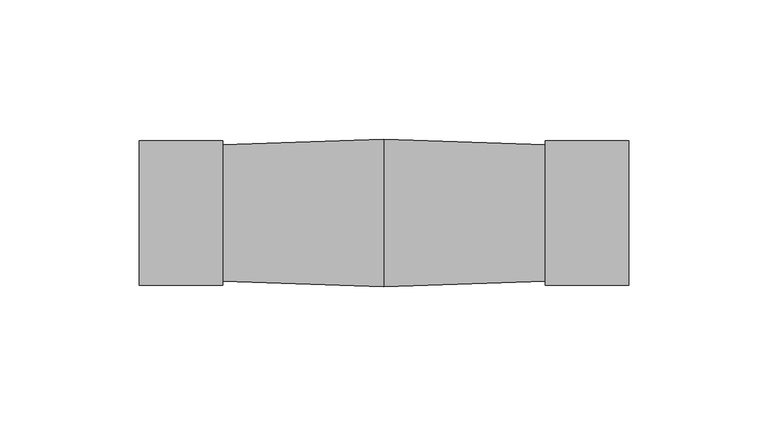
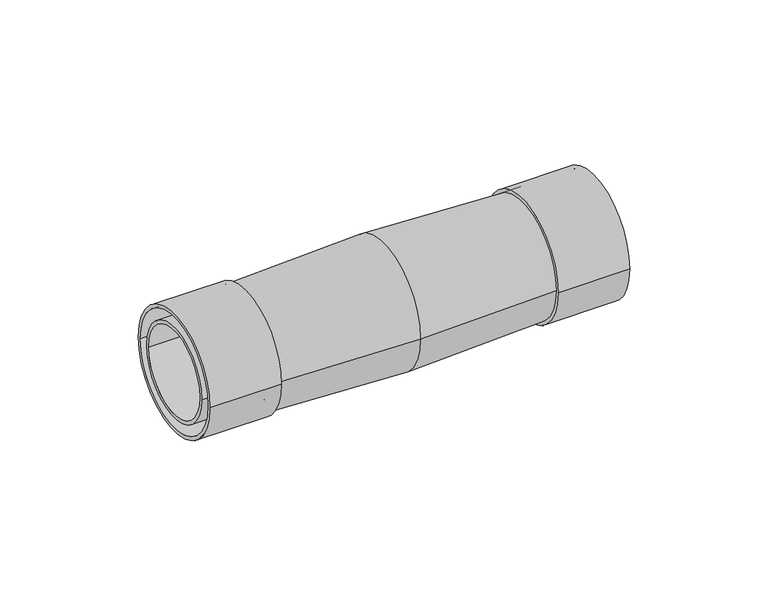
"""IFC4 building model written with IfcOpenShell, lengths in millimetres: cable carrier fitting geometry, КНС_МуфтаДляАрмированныхТруб_IP65_DKC : Коробка."""

from ifc_helpers import new_model, si_unit, point, frame, origin, origin_2d, place, context, project, spatial, polyline, circle_curve, trimmed, segment, composite_curve, outline, extrude, source, transform, mapped, element, save
from ifc_brep_helpers import plane_surface, revolved_surface, advanced_brep


def cable_carrier_fitting_f0e7d8c3(model_context):
    return source(origin(), model_context, "Body", "SolidModel", [
        advanced_brep(
        [(-58.0, -24.5, 0.0), (-58.0, 24.5, 0.0), (0.0, 26.5, 0.0), (0.0, -26.5, 0.0), (-58.0, 0.0, 0.0), (58.0, -24.5, 0.0), (58.0, 24.5, 0.0), (58.0, 0.0, 0.0)],
        [
            (0, 1, circle_curve(frame((-58.0, 0.0, 0.0), z_axis=(1.0, 0.0, 0.0), x_axis=(0.0, 1.0, 0.0)), 24.5)),
            (1, 2),
            (2, 3, circle_curve(frame((0.0, 0.0, 0.0), z_axis=(-1.0, 0.0, 0.0), x_axis=(0.0, 1.0, 0.0)), 26.5)),
            (3, 0),
            (1, 0, circle_curve(frame((-58.0, 0.0, 0.0), z_axis=(1.0, 0.0, 0.0), x_axis=(0.0, 1.0, 0.0)), 24.5)),
            (3, 2, circle_curve(frame((0.0, 0.0, 0.0), z_axis=(-1.0, 0.0, 0.0), x_axis=(0.0, 1.0, 0.0)), 26.5)),
            (4, 1),
            (0, 4),
            (5, 6, circle_curve(frame((58.0, 0.0, 0.0), z_axis=(1.0, 0.0, 0.0), x_axis=(0.0, 1.0, 0.0)), 24.5)),
            (6, 7),
            (7, 5),
            (6, 5, circle_curve(frame((58.0, 0.0, 0.0), z_axis=(1.0, 0.0, 0.0), x_axis=(0.0, 1.0, 0.0)), 24.5)),
            (2, 6),
            (5, 3),
        ],
        [
            revolved_surface(polyline([(0.0, 26.5, 0.0), (-58.0, 24.5, 0.0)]), (1539.0, 0.0, 0.0), (-1.0, 0.0, 0.0)),
            plane_surface(frame((-58.0, 0.0, 0.0), z_axis=(-1.0, 0.0, 0.0), x_axis=(0.0, 1.0, 0.0))),
            plane_surface(frame((58.0, 0.0, 0.0), z_axis=(1.0, 0.0, 0.0), x_axis=(0.0, 1.0, 0.0))),
            revolved_surface(polyline([(58.0, 24.5, 0.0), (0.0, 26.5, 0.0)]), (1539.0, 0.0, 0.0), (-1.0, 0.0, 0.0)),
        ],
        [
            (0, [[1, 2, 3, 4]]),
            (0, [[5, -4, 6, -2]]),
            (1, [[7, -1, 8]]),
            (1, [[-8, -5, -7]]),
            (2, [[9, 10, 11]]),
            (2, [[12, -11, -10]]),
            (3, [[-3, 13, -9, 14]]),
            (3, [[-6, -14, -12, -13]]),
        ],
    ),
        extrude(outline(composite_curve([segment(trimmed(circle_curve(origin_2d(), 20.0), [point((-20.0, 0.0))], [point((20.0, 0.0))], False, "CARTESIAN"), True, "CONTINUOUS"), segment(trimmed(circle_curve(origin_2d(), 20.0), [point((20.0, 0.0))], [point((-20.0, 0.0))], False, "CARTESIAN"), True, "CONTINUOUS")], self_intersect=False), holes=[composite_curve([segment(trimmed(circle_curve(origin_2d(), 18.5), [point((-18.5, 0.0))], [point((18.5, 0.0))], True, "CARTESIAN"), True, "CONTINUOUS"), segment(trimmed(circle_curve(origin_2d(), 18.5), [point((18.5, 0.0))], [point((-18.5, 0.0))], True, "CARTESIAN"), True, "CONTINUOUS")], self_intersect=False)]), frame((-88.0, 0.0, 0.0), z_axis=(1.0, 0.0, 0.0), x_axis=(0.0, 1.0, 0.0)), (0.0, 0.0, 1.0), 30.0),
        extrude(outline(composite_curve([segment(trimmed(circle_curve(origin_2d(), 26.0), [point((-26.0, 0.0))], [point((26.0, 0.0))], False, "CARTESIAN"), True, "CONTINUOUS"), segment(trimmed(circle_curve(origin_2d(), 26.0), [point((26.0, 0.0))], [point((-26.0, 0.0))], False, "CARTESIAN"), True, "CONTINUOUS")], self_intersect=False), holes=[composite_curve([segment(trimmed(circle_curve(origin_2d(), 24.5), [point((-24.5, 0.0))], [point((24.5, 0.0))], True, "CARTESIAN"), True, "CONTINUOUS"), segment(trimmed(circle_curve(origin_2d(), 24.5), [point((24.5, 0.0))], [point((-24.5, 0.0))], True, "CARTESIAN"), True, "CONTINUOUS")], self_intersect=False)]), frame((-88.0, 0.0, 0.0), z_axis=(1.0, 0.0, 0.0), x_axis=(0.0, 1.0, 0.0)), (0.0, 0.0, 1.0), 30.0),
        extrude(outline(composite_curve([segment(trimmed(circle_curve(origin_2d(), 26.0), [point((-26.0, 0.0))], [point((26.0, 0.0))], False, "CARTESIAN"), True, "CONTINUOUS"), segment(trimmed(circle_curve(origin_2d(), 26.0), [point((26.0, 0.0))], [point((-26.0, 0.0))], False, "CARTESIAN"), True, "CONTINUOUS")], self_intersect=False), holes=[composite_curve([segment(trimmed(circle_curve(origin_2d(), 24.5), [point((-24.5, 0.0))], [point((24.5, 0.0))], True, "CARTESIAN"), True, "CONTINUOUS"), segment(trimmed(circle_curve(origin_2d(), 24.5), [point((24.5, 0.0))], [point((-24.5, 0.0))], True, "CARTESIAN"), True, "CONTINUOUS")], self_intersect=False)]), frame((58.0, 0.0, 0.0), z_axis=(1.0, 0.0, 0.0), x_axis=(0.0, 1.0, 0.0)), (0.0, 0.0, 1.0), 30.0),
        extrude(outline(composite_curve([segment(trimmed(circle_curve(origin_2d(), 20.0), [point((-20.0, 0.0))], [point((20.0, 0.0))], False, "CARTESIAN"), True, "CONTINUOUS"), segment(trimmed(circle_curve(origin_2d(), 20.0), [point((20.0, 0.0))], [point((-20.0, 0.0))], False, "CARTESIAN"), True, "CONTINUOUS")], self_intersect=False), holes=[composite_curve([segment(trimmed(circle_curve(origin_2d(), 18.5), [point((-18.5, 0.0))], [point((18.5, 0.0))], True, "CARTESIAN"), True, "CONTINUOUS"), segment(trimmed(circle_curve(origin_2d(), 18.5), [point((18.5, 0.0))], [point((-18.5, 0.0))], True, "CARTESIAN"), True, "CONTINUOUS")], self_intersect=False)]), frame((58.0, 0.0, 0.0), z_axis=(1.0, 0.0, 0.0), x_axis=(0.0, 1.0, 0.0)), (0.0, 0.0, 1.0), 30.0),
    ])


if __name__ == "__main__":
    model = new_model("IFC4")
    model_context = context("Model", 3, world=origin())
    ifc_project = project(units=[si_unit("LENGTHUNIT", "METRE", prefix="MILLI")], contexts=[model_context])
    site = spatial("IfcSite", under=ifc_project)
    building = spatial("IfcBuilding", under=site)
    placement = place(None, origin())
    cable_carrier_fitting_shape = cable_carrier_fitting_f0e7d8c3(model_context)
    element("IfcCableCarrierFitting", 1, ObjectType="КНС_МуфтаДляАрмированныхТруб_IP65_DKC : Коробка", at=placement, inside=building, context=model_context, shape_type="MappedRepresentation", body=[
        mapped(cable_carrier_fitting_shape, transform((0.0, 0.0, 0.0), x_axis=(1.0, 0.0, 0.0), y_axis=(0.0, 1.0, 0.0), z_axis=(0.0, 0.0, 1.0))),
    ])
    save(model, "model.ifc")
